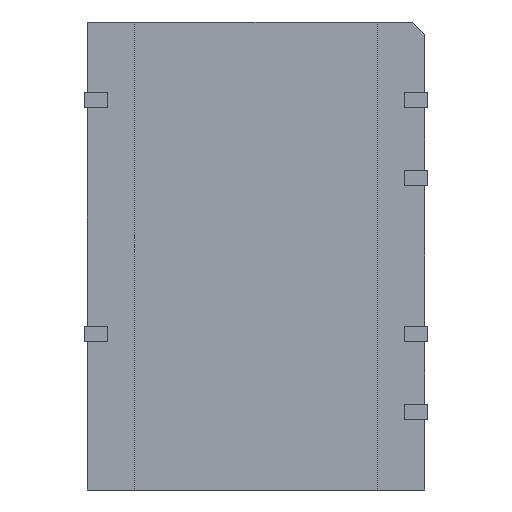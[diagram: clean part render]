
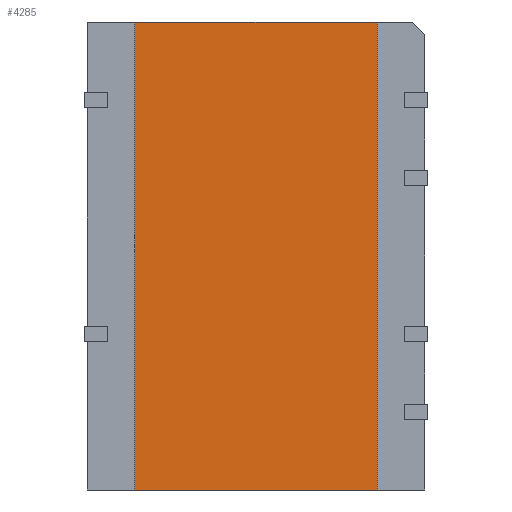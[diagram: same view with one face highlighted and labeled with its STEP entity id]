
A CAD part, front view. The second image highlights one B-rep face of the part: STEP entity #4285.
In plain terms, the highlighted planar face has unit normal (0, -1, 0).
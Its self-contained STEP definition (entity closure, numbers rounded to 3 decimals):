
#655=ORIENTED_EDGE('',*,*,#1674,.T.);
#656=ORIENTED_EDGE('',*,*,#1676,.F.);
#657=ORIENTED_EDGE('',*,*,#1670,.F.);
#658=ORIENTED_EDGE('',*,*,#1677,.T.);
#1670=EDGE_CURVE('',#2212,#2213,#2659,.T.);
#1674=EDGE_CURVE('',#2215,#2214,#2663,.T.);
#1676=EDGE_CURVE('',#2213,#2214,#2665,.T.);
#1677=EDGE_CURVE('',#2212,#2215,#2666,.T.);
#2212=VERTEX_POINT('',#6438);
#2213=VERTEX_POINT('',#6440);
#2214=VERTEX_POINT('',#6445);
#2215=VERTEX_POINT('',#6447);
#2659=LINE('',#6439,#3212);
#2663=LINE('',#6446,#3216);
#2665=LINE('',#6450,#3218);
#2666=LINE('',#6452,#3219);
#3212=VECTOR('',#5246,1000.);
#3216=VECTOR('',#5252,1000.);
#3218=VECTOR('',#5256,1000.);
#3219=VECTOR('',#5259,1000.);
#3601=EDGE_LOOP('',(#655,#656,#657,#658));
#3848=FACE_BOUND('',#3601,.T.);
#4071=PLANE('',#4605);
#4285=ADVANCED_FACE('',(#3848),#4071,.F.);
#4605=AXIS2_PLACEMENT_3D('',#6451,#5257,#5258);
#5246=DIRECTION('',(-1.,0.,0.));
#5252=DIRECTION('',(-1.,0.,0.));
#5256=DIRECTION('',(0.,0.,1.));
#5257=DIRECTION('',(0.,1.,0.));
#5258=DIRECTION('',(0.,0.,1.));
#5259=DIRECTION('',(0.,0.,1.));
#6438=CARTESIAN_POINT('',(5.815,-2.735,-15.24));
#6439=CARTESIAN_POINT('',(-2.085,-2.735,-15.24));
#6440=CARTESIAN_POINT('',(-2.085,-2.735,-15.24));
#6445=CARTESIAN_POINT('',(-2.085,-2.735,0.));
#6446=CARTESIAN_POINT('',(-2.085,-2.735,0.));
#6447=CARTESIAN_POINT('',(5.815,-2.735,0.));
#6450=CARTESIAN_POINT('',(-2.085,-2.735,-15.24));
#6451=CARTESIAN_POINT('',(-2.085,-2.735,-15.24));
#6452=CARTESIAN_POINT('',(5.815,-2.735,-15.24));
